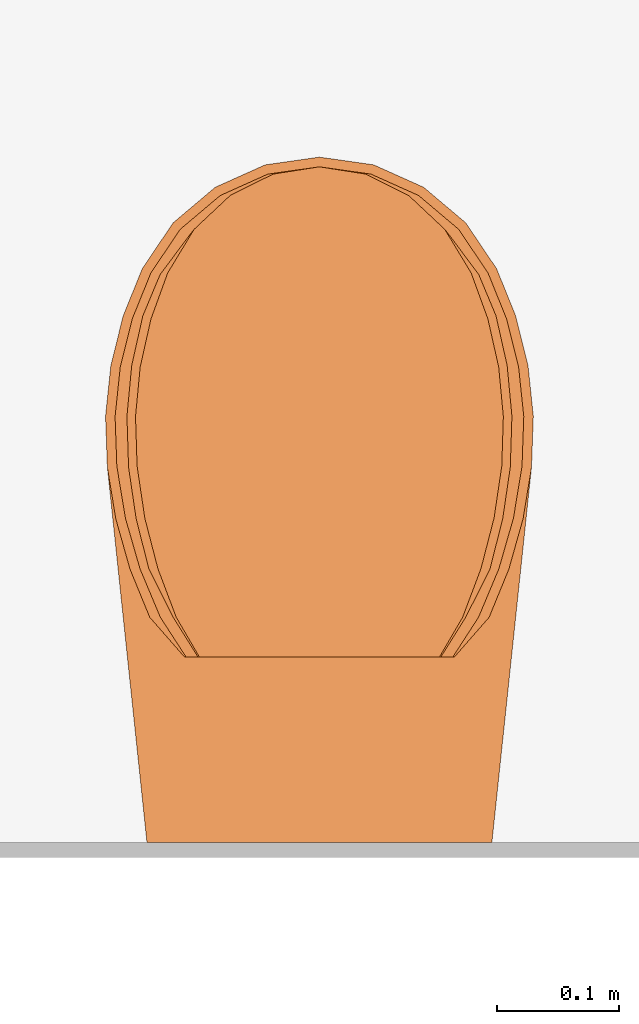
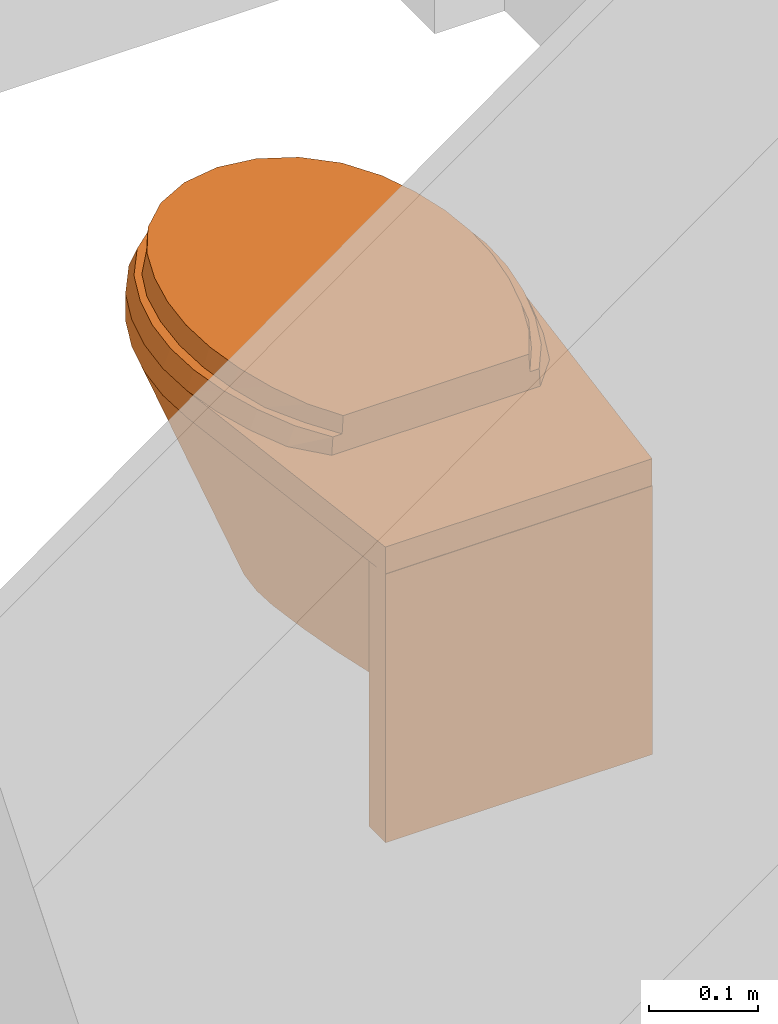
# One storey, part 88 of 99: 1 proxy.
"""IFC2X3 building model written with IfcOpenShell, lengths in millimetres."""

from ifc_helpers import new_model, entity, si_unit, converted_unit, derived_unit, money_unit, direction, frame, origin_with_axes, place, context, subcontext, project, spatial, open_shell, faceted_brep, surface_model, source, transform, mapped, type_object, type_shapes, element, save


model = new_model("IFC2X3")

# Units and contexts
model_context = context("Model", 3, precision=0.01, world=origin_with_axes(), true_north=direction((0.0, 1.0)))
body_context = subcontext(model_context, "Body", "Model", "MODEL_VIEW")
ifc_project = project(units=[si_unit("LENGTHUNIT", "METRE", prefix="MILLI"), si_unit("AREAUNIT", "SQUARE_METRE"), si_unit("VOLUMEUNIT", "CUBIC_METRE"), converted_unit("PLANEANGLEUNIT", "DEGREE", entity("IfcPlaneAngleMeasure", 0.0174532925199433), si_unit("PLANEANGLEUNIT", "RADIAN"), dimensions=[0, 0, 0, 0, 0, 0, 0]), money_unit("EUR"), converted_unit("TIMEUNIT", "Year", entity("IfcTimeMeasure", 31557600.0), si_unit("TIMEUNIT", "SECOND"), dimensions=[0, 0, 1, 0, 0, 0, 0]), si_unit("MASSUNIT", "GRAM", prefix="KILO"), si_unit("THERMODYNAMICTEMPERATUREUNIT", "DEGREE_CELSIUS"), si_unit("LUMINOUSINTENSITYUNIT", "LUMEN"), si_unit("ENERGYUNIT", "JOULE", prefix="MEGA"), derived_unit("THERMALCONDUCTANCEUNIT", [(si_unit("POWERUNIT", "WATT"), 1), (si_unit("LENGTHUNIT", "METRE"), -1), (si_unit("THERMODYNAMICTEMPERATUREUNIT", "KELVIN"), -1)]), derived_unit("SPECIFICHEATCAPACITYUNIT", [(si_unit("ENERGYUNIT", "JOULE"), 1), (si_unit("MASSUNIT", "GRAM", prefix="KILO"), -1), (si_unit("THERMODYNAMICTEMPERATUREUNIT", "KELVIN"), -1)]), derived_unit("MASSDENSITYUNIT", [(si_unit("MASSUNIT", "GRAM", prefix="KILO"), 1), (si_unit("VOLUMEUNIT", "CUBIC_METRE"), -1)])], contexts=[model_context])

# Site, building, storey
site_placement = place(None, origin_with_axes())
site = spatial("IfcSite", under=ifc_project, at=site_placement, Name="Site", CompositionType="ELEMENT")
building_placement = place(site_placement, origin_with_axes())
building = spatial("IfcBuilding", under=site, at=building_placement, Name="Naam gebouw", CompositionType="ELEMENT")
storey_placement = place(building_placement, frame((0.0, 0.0, 7650.0), z_axis=(0.0, 0.0, 1.0), x_axis=(1.0, 0.0, 0.0)))
storey = spatial("IfcBuildingStorey", under=building, at=storey_placement, Name="2e verdieping N", CompositionType="ELEMENT", Elevation=7650.0)

# Proxy
building_element_proxy_type = type_object("IfcBuildingElementProxyType", Name="Toilet 27", PredefinedType="NOTDEFINED")
shared_shape = source(origin_with_axes(), body_context, "Body", "SurfaceModel", [
    faceted_brep([(141.0283315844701, -29.31865370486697, 69.99999999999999), (-141.0283315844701, -29.31865370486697, 69.99999999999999), (-141.0283315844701, 0.4949050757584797, 69.99999999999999), (141.0283315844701, 0.4949050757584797, 69.99999999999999), (141.0283315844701, -29.31865370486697, 370.0), (-141.0283315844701, -29.31865370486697, 370.0), (-141.0283315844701, 0.4949050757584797, 370.0), (141.0283315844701, 0.4949050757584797, 370.0)], [[[0, 1, 2, 3]], [[1, 0, 4, 5]], [[2, 1, 5, 6]], [[3, 2, 6, 7]], [[0, 3, 7, 4]], [[5, 4, 7, 6]]]),
    faceted_brep([(0.0, -70.89167385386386, 370.0), (29.22322490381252, -74.34010881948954, 370.0), (48.96817068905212, -81.5929972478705, 370.0), (48.96817068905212, -29.31865370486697, 370.0), (-48.96817068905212, -29.31865370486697, 370.0), (-48.96817068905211, -81.5929972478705, 370.0), (-29.22322490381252, -74.34010881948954, 370.0), (13.70129415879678, -104.9506834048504, 120.0), (48.96817068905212, -91.42153264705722, 305.9289314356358), (25.9903462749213, -111.5027098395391, 120.0), (48.96817068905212, -132.9294031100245, 150.8349994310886), (48.96817068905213, -162.8654130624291, 120.0), (48.96817068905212, -29.31865370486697, 120.0), (48.96817068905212, -98.32654517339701, 277.0091093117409), (48.96817068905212, -115.6023982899, 192.7960154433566), (48.96817068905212, -128.1614437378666, 166.4745945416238), (-48.96817068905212, -29.31865370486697, 120.0), (-48.96817068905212, -88.2509938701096, 324.1614695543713), (-48.96817068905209, -162.865413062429, 120.0), (-48.96817068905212, -136.958898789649, 141.3134093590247), (-48.96817068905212, -132.9294031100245, 150.8349994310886), (-48.96817068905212, -121.830119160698, 170.4964192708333), (-48.96817068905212, -115.6023982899, 192.7960154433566), (-48.96817068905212, -107.0876370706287, 223.4625696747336), (-48.96817068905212, -91.42153264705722, 305.9289314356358), (-13.70129415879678, -104.9506834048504, 120.0), (0.0, -102.6888280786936, 120.0), (35.59888072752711, -121.6691333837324, 120.0), (41.53676110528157, -134.4015105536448, 120.0), (-41.53676110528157, -134.4015105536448, 120.0), (-25.9903462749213, -111.5027098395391, 120.0), (-35.59888072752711, -121.6691333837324, 120.0)], [[[0, 1, 2, 3, 4, 5, 6]], [[1, 0, 7]], [[8, 2, 1, 9]], [[10, 11, 12, 3, 2, 8, 13, 14, 15]], [[3, 12, 16, 4]], [[17, 5, 4, 16, 18, 19, 20, 21, 22, 23, 24]], [[6, 5, 17, 25]], [[0, 6, 26]], [[26, 7, 0]], [[7, 9, 1]], [[13, 8, 9, 27]], [[11, 10, 28]], [[29, 18, 16, 12, 11, 28, 27, 9, 7, 26, 25, 30, 31]], [[14, 13, 27]], [[15, 14, 27, 28]], [[10, 15, 28]], [[18, 29, 19]], [[20, 19, 29]], [[29, 31, 21, 20]], [[22, 21, 31]], [[31, 30, 23, 22]], [[24, 23, 30]], [[30, 25, 17, 24]], [[25, 26, 6]]]),
    surface_model("IfcShellBasedSurfaceModel", [(17.69122070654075, -459.020482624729, 120.0), (34.02798181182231, -451.6883347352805, 120.0), (85.18209164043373, -535.3680377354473, 370.0), (0.0, -461.5278029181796, 120.0), (-17.69122070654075, -459.020482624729, 120.0), (-34.02798181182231, -451.6883347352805, 120.0), (-47.75865687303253, -440.0938417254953, 120.0), (-57.83238894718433, -425.1254476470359, 120.0), (-68.23029031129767, -399.4182096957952, 120.0), (-74.94382651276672, -372.4786779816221, 120.0), (-77.83882476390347, -344.8464779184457, 120.0), (-76.85750262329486, -317.0761416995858, 120.0), (-70.97348723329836, -270.8651255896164, 120.0), (-63.11507520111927, -224.9582077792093, 120.0), (-53.29597761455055, -179.4418475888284, 120.0), (-41.53676110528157, -134.4015105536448, 120.0), (-35.59888072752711, -121.6691333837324, 120.0), (-25.9903462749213, -111.5027098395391, 120.0), (-13.70129415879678, -104.9506834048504, 120.0), (0.0, -102.6888280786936, 120.0), (13.70129415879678, -104.9506834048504, 120.0), (25.9903462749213, -111.5027098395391, 120.0), (35.59888072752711, -121.6691333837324, 120.0), (41.53676110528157, -134.4015105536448, 120.0), (53.29597761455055, -179.4418475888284, 120.0), (63.11507520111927, -224.9582077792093, 120.0), (70.97348723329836, -270.8651255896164, 120.0), (76.85750262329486, -317.0761416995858, 120.0), (77.83882476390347, -344.845484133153, 120.0), (74.94382651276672, -372.4786779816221, 120.0), (68.23029031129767, -399.4182096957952, 120.0), (57.83238894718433, -425.1254476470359, 120.0), (47.75865687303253, -440.0938417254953, 120.0), (119.554809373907, -506.3435444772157, 370.0), (44.28681357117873, -553.722258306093, 370.0), (0.0, -560.0, 370.0), (-44.28681357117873, -553.722258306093, 370.0), (-85.18209164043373, -535.3680377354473, 370.0), (-119.554809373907, -506.3435444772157, 370.0), (-144.7734172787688, -468.8718762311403, 370.0), (-160.3893669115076, -430.2603362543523, 370.0), (-170.4738719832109, -389.7973742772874, 370.0), (-174.8222455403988, -348.2949128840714, 370.0), (-173.3473242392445, -306.5847503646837, 370.0), (-164.8111927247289, -257.295981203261, 370.0), (-149.8396642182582, -209.614162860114, 370.0), (-128.7050017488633, -164.3989196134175, 370.0), (-101.7881776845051, -122.4661491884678, 370.0), (-81.51241692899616, -100.8344247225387, 370.0), (-56.88632388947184, -84.50156343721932, 370.0), (-29.22322490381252, -74.34010881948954, 370.0), (0.0, -70.89167385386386, 370.0), (29.22322490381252, -74.34010881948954, 370.0), (56.88632388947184, -84.50156343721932, 370.0), (81.51241692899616, -100.8344247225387, 370.0), (101.7881776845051, -122.4661491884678, 370.0), (128.7050017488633, -164.3989196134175, 370.0), (149.8396642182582, -209.614162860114, 370.0), (164.8111927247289, -257.2969749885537, 370.0), (173.3473242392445, -306.5847503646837, 370.0), (174.8222455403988, -348.2949128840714, 370.0), (170.4738719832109, -389.7973742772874, 370.0), (160.3903462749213, -430.2603362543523, 370.0), (144.7734172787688, -468.8718762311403, 370.0)], [open_shell([[[0, 1, 2]], [[0, 3, 4, 5, 6, 7, 8, 9, 10, 11, 12, 13, 14, 15, 16, 17, 18, 19, 20, 21, 22, 23, 24, 25, 26, 27, 28, 29, 30, 31, 32, 1]], [[1, 33, 2]], [[0, 2, 34]], [[3, 0, 34]], [[4, 3, 35]], [[5, 4, 36]], [[6, 5, 37]], [[7, 6, 38]], [[8, 7, 39]], [[9, 8, 40]], [[10, 9, 41]], [[11, 10, 42]], [[12, 11, 43]], [[13, 12, 44]], [[14, 13, 45]], [[15, 14, 46]], [[16, 15, 47]], [[17, 16, 48]], [[18, 17, 49]], [[19, 18, 50]], [[20, 19, 51]], [[21, 20, 52]], [[22, 21, 53]], [[23, 22, 54]], [[24, 23, 55]], [[25, 24, 56]], [[26, 25, 57]], [[27, 26, 58]], [[28, 27, 59]], [[29, 28, 60]], [[30, 29, 61]], [[31, 30, 62]], [[32, 31, 63]], [[1, 32, 33]], [[3, 34, 35]], [[4, 35, 36]], [[5, 36, 37]], [[6, 37, 38]], [[7, 38, 39]], [[8, 39, 40]], [[9, 40, 41]], [[10, 41, 42]], [[11, 42, 43]], [[12, 43, 44]], [[13, 44, 45]], [[14, 45, 46]], [[15, 46, 47]], [[16, 47, 48]], [[17, 48, 49]], [[18, 49, 50]], [[19, 50, 51]], [[20, 51, 52]], [[21, 52, 53]], [[22, 53, 54]], [[23, 54, 55]], [[24, 55, 56]], [[25, 56, 57]], [[26, 57, 58]], [[27, 58, 59]], [[28, 59, 60]], [[29, 60, 61]], [[30, 61, 62]], [[31, 62, 63]], [[32, 63, 33]]])]),
    faceted_brep([(-173.3473242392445, -306.5847503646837, 370.0), (-174.8222455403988, -348.2949128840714, 370.0), (-174.8222455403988, -348.2949128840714, 400.0), (-173.3473242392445, -306.5847503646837, 400.0), (-140.9734872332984, 0.0, 370.0), (140.975445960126, 0.0, 370.0), (173.3473242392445, -306.5847503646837, 370.0), (174.8222455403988, -348.2949128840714, 370.0), (170.4738719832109, -389.7973742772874, 370.0), (160.3903462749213, -430.2603362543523, 370.0), (144.7734172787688, -468.8718762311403, 370.0), (119.554809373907, -506.3435444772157, 370.0), (85.18209164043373, -535.3680377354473, 370.0), (44.28681357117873, -553.722258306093, 370.0), (0.0, -560.0, 370.0), (-44.28681357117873, -553.722258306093, 370.0), (-85.18209164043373, -535.3680377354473, 370.0), (-119.554809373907, -506.3435444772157, 370.0), (-144.7734172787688, -468.8718762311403, 370.0), (-160.3893669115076, -430.2603362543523, 370.0), (-170.4738719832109, -389.7973742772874, 370.0), (144.5021336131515, -309.7211367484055, 370.0), (129.3885974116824, -258.2838037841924, 370.0), (97.13522210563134, -215.7418429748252, 370.0), (52.01301154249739, -187.731010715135, 370.0), (0.0, -177.9630950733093, 370.0), (-52.01301154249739, -187.731010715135, 370.0), (-97.13522210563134, -215.7418429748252, 370.0), (-129.3885974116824, -258.2838037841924, 370.0), (-144.5021336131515, -309.7211367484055, 370.0), (-145.8291710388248, -347.2633637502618, 370.0), (-141.914655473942, -384.6197529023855, 370.0), (-132.838894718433, -421.0399963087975, 370.0), (-118.7820916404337, -455.7936617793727, 370.0), (-98.09206016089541, -486.5383973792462, 370.0), (-69.89031129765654, -510.3524743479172, 370.0), (-36.33634137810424, -525.411302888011, 370.0), (0.0, -530.5620920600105, 370.0), (36.33634137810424, -525.411302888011, 370.0), (69.89031129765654, -510.3524743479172, 370.0), (98.09206016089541, -486.5383973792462, 370.0), (118.7820916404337, -455.7936617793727, 370.0), (132.838894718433, -421.0399963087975, 370.0), (141.914655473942, -384.6197529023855, 370.0), (145.8291710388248, -347.2633637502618, 370.0), (-170.4738719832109, -389.7973742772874, 400.0), (-160.3893669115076, -430.2603362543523, 400.0), (-144.7734172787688, -468.8718762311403, 400.0), (-119.554809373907, -506.3435444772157, 400.0), (-85.18209164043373, -535.3680377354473, 400.0), (-44.28681357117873, -553.722258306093, 400.0), (0.0, -560.0, 400.0), (44.28681357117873, -553.722258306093, 400.0), (85.18209164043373, -535.3680377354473, 400.0), (119.554809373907, -506.3435444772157, 400.0), (144.7734172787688, -468.8718762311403, 400.0), (160.3903462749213, -430.2603362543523, 400.0), (170.4738719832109, -389.7973742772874, 400.0), (174.8222455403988, -348.2949128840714, 400.0), (173.3473242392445, -306.5847503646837, 400.0), (140.975445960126, 0.0, 400.0), (-140.9734872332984, 0.0, 400.0), (144.5021336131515, -309.7211367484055, 400.0), (145.8291710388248, -347.2633637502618, 400.0), (141.914655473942, -384.6197529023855, 400.0), (132.838894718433, -421.0399963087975, 400.0), (118.7820916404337, -455.7936617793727, 400.0), (98.09206016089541, -486.5383973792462, 400.0), (69.89031129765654, -510.3524743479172, 400.0), (36.33634137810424, -525.411302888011, 400.0), (0.0, -530.5620920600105, 400.0), (-36.33634137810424, -525.411302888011, 400.0), (-69.89031129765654, -510.3524743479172, 400.0), (-98.09206016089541, -486.5383973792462, 400.0), (-118.7820916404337, -455.7936617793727, 400.0), (-132.838894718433, -421.0399963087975, 400.0), (-141.914655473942, -384.6197529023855, 400.0), (-145.8291710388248, -347.2633637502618, 400.0), (-144.5021336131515, -309.7211367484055, 400.0), (-129.3885974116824, -258.2838037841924, 400.0), (-97.13522210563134, -215.7418429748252, 400.0), (-52.01301154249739, -187.731010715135, 400.0), (0.0, -177.9630950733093, 400.0), (52.01301154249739, -187.731010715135, 400.0), (97.13522210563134, -215.7418429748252, 400.0), (129.3885974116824, -258.2838037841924, 400.0)], [[[0, 1, 2, 3]], [[0, 4, 5, 6, 7, 8, 9, 10, 11, 12, 13, 14, 15, 16, 17, 18, 19, 20, 1], [21, 22, 23, 24, 25, 26, 27, 28, 29, 30, 31, 32, 33, 34, 35, 36, 37, 38, 39, 40, 41, 42, 43, 44]], [[1, 20, 45, 2]], [[3, 2, 45, 46, 47, 48, 49, 50, 51, 52, 53, 54, 55, 56, 57, 58, 59, 60, 61], [62, 63, 64, 65, 66, 67, 68, 69, 70, 71, 72, 73, 74, 75, 76, 77, 78, 79, 80, 81, 82, 83, 84, 85]], [[4, 0, 3, 61]], [[5, 4, 61, 60]], [[6, 5, 60, 59]], [[7, 6, 59, 58]], [[8, 7, 58, 57]], [[9, 8, 57, 56]], [[10, 9, 56, 55]], [[11, 10, 55, 54]], [[12, 11, 54, 53]], [[13, 12, 53, 52]], [[14, 13, 52, 51]], [[15, 14, 51, 50]], [[16, 15, 50, 49]], [[17, 16, 49, 48]], [[18, 17, 48, 47]], [[19, 18, 47, 46]], [[20, 19, 46, 45]], [[22, 21, 62, 85]], [[23, 22, 85, 84]], [[24, 23, 84, 83]], [[25, 24, 83, 82]], [[26, 25, 82, 81]], [[27, 26, 81, 80]], [[28, 27, 80, 79]], [[29, 28, 79, 78]], [[30, 29, 78, 77]], [[31, 30, 77, 76]], [[32, 31, 76, 75]], [[33, 32, 75, 74]], [[34, 33, 74, 73]], [[35, 34, 73, 72]], [[36, 35, 72, 71]], [[37, 36, 71, 70]], [[38, 37, 70, 69]], [[39, 38, 69, 68]], [[40, 39, 68, 67]], [[41, 40, 67, 66]], [[42, 41, 66, 65]], [[43, 42, 65, 64]], [[44, 43, 64, 63]], [[21, 44, 63, 62]]]),
    surface_model("IfcShellBasedSurfaceModel", [(16.80665967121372, -465.7329258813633, 220.0), (32.3265827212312, -460.0138505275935, 220.0), (80.92298705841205, -525.2840188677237, 370.0), (0.0, -467.6886357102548, 220.0), (-16.80665967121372, -465.7329258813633, 220.0), (-32.3265827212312, -460.0138505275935, 220.0), (-45.3707240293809, -450.970145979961, 220.0), (-54.94076949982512, -439.2947985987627, 220.0), (-64.81877579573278, -419.2431529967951, 220.0), (-71.1966351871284, -398.23031825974, 220.0), (-73.9468835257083, -376.6772022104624, 220.0), (-73.01462749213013, -355.0163399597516, 220.0), (-67.42481287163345, -318.9717473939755, 220.0), (-59.95932144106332, -283.164351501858, 220.0), (-50.63117873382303, -247.6615905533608, 220.0), (-39.4599230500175, -212.5301276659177, 220.0), (-33.81893669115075, -202.598873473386, 220.0), (-24.69082896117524, -194.6690631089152, 220.0), (-13.01622945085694, -189.558482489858, 220.0), (0.0, -187.7942353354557, 220.0), (13.01622945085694, -189.558482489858, 220.0), (24.69082896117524, -194.6690631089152, 220.0), (33.81893669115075, -202.598873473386, 220.0), (39.4599230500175, -212.5301276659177, 220.0), (50.63117873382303, -247.6615905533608, 220.0), (59.95932144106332, -283.164351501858, 220.0), (67.42481287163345, -318.9717473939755, 220.0), (73.01462749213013, -355.0163399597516, 220.0), (73.9468835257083, -376.6764270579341, 220.0), (71.1966351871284, -398.23031825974, 220.0), (64.81877579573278, -419.2431529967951, 220.0), (54.94076949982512, -439.2947985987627, 220.0), (45.3707240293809, -450.970145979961, 220.0), (113.5770689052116, -502.644914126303, 370.0), (42.0724728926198, -539.6003109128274, 370.0), (0.0, -544.4969494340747, 370.0), (-42.0724728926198, -539.6003109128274, 370.0), (-80.92298705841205, -525.2840188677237, 370.0), (-113.5770689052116, -502.644914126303, 370.0), (-137.5347464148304, -473.4170128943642, 370.0), (-152.3698985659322, -443.3000117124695, 370.0), (-161.9501783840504, -411.7389013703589, 370.0), (-166.0811332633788, -379.3669814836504, 370.0), (-164.6799580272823, -346.833054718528, 370.0), (-156.5706330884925, -308.3878147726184, 370.0), (-142.3476810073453, -271.1959964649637, 370.0), (-122.2697516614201, -235.9281067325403, 370.0), (-96.69876880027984, -203.2205458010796, 370.0), (-77.43679608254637, -186.3478007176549, 370.0), (-54.04200769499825, -173.6081689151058, 370.0), (-27.7620636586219, -165.6822343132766, 370.0), (0.0, -162.9924550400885, 370.0), (27.7620636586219, -165.6822343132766, 370.0), (54.04200769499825, -173.6081689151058, 370.0), (77.43679608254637, -186.3478007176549, 370.0), (96.69876880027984, -203.2205458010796, 370.0), (122.2697516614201, -235.9281067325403, 370.0), (142.3476810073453, -271.1959964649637, 370.0), (156.5706330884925, -308.3885899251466, 370.0), (164.6799580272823, -346.833054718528, 370.0), (166.0811332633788, -379.3669814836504, 370.0), (161.9501783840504, -411.7389013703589, 370.0), (152.3708289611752, -443.3000117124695, 370.0), (137.5347464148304, -473.4170128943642, 370.0)], [open_shell([[[0, 1, 2]], [[0, 3, 4, 5, 6, 7, 8, 9, 10, 11, 12, 13, 14, 15, 16, 17, 18, 19, 20, 21, 22, 23, 24, 25, 26, 27, 28, 29, 30, 31, 32, 1]], [[1, 33, 2]], [[0, 2, 34]], [[3, 0, 34]], [[4, 3, 35]], [[5, 4, 36]], [[6, 5, 37]], [[7, 6, 38]], [[8, 7, 39]], [[9, 8, 40]], [[10, 9, 41]], [[11, 10, 42]], [[12, 11, 43]], [[13, 12, 44]], [[14, 13, 45]], [[15, 14, 46]], [[16, 15, 47]], [[17, 16, 48]], [[18, 17, 49]], [[19, 18, 50]], [[20, 19, 51]], [[21, 20, 52]], [[22, 21, 53]], [[23, 22, 54]], [[24, 23, 55]], [[25, 24, 56]], [[26, 25, 57]], [[27, 26, 58]], [[28, 27, 59]], [[29, 28, 60]], [[30, 29, 61]], [[31, 30, 62]], [[32, 31, 63]], [[1, 32, 33]], [[3, 34, 35]], [[4, 35, 36]], [[5, 36, 37]], [[6, 37, 38]], [[7, 38, 39]], [[8, 39, 40]], [[9, 40, 41]], [[10, 41, 42]], [[11, 42, 43]], [[12, 43, 44]], [[13, 44, 45]], [[14, 45, 46]], [[15, 46, 47]], [[16, 47, 48]], [[17, 48, 49]], [[18, 49, 50]], [[19, 50, 51]], [[20, 51, 52]], [[21, 52, 53]], [[22, 53, 54]], [[23, 54, 55]], [[24, 55, 56]], [[25, 56, 57]], [[26, 57, 58]], [[27, 58, 59]], [[28, 59, 60]], [[29, 60, 61]], [[30, 61, 62]], [[31, 62, 63]], [[32, 63, 33]]])]),
    faceted_brep([(0.0, -560.0, 400.0), (-44.28681357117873, -553.722258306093, 400.0), (-85.18209164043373, -535.3680377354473, 400.0), (-119.554809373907, -506.3435444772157, 400.0), (-144.7734172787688, -468.8718762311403, 400.0), (-160.3893669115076, -430.2603362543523, 400.0), (-170.4738719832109, -389.7973742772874, 400.0), (-174.8222455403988, -348.2949128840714, 400.0), (-173.3473242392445, -306.5847503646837, 400.0), (-166.4663168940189, -264.4263906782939, 400.0), (-154.8716334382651, -223.3443004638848, 400.0), (-138.7150752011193, -183.8810864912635, 400.0), (-110.1926579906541, -151.3163525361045, 400.0), (110.1926579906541, -151.3163525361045, 400.0), (138.7150752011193, -183.8810864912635, 400.0), (154.8716334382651, -223.3443004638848, 400.0), (166.4663168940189, -264.4263906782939, 400.0), (173.3473242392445, -306.5847503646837, 400.0), (174.8222455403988, -348.2949128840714, 400.0), (170.4738719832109, -389.7973742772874, 400.0), (160.3903462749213, -430.2603362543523, 400.0), (144.7734172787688, -468.8718762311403, 400.0), (119.554809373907, -506.3435444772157, 400.0), (85.18209164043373, -535.3680377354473, 400.0), (44.28681357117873, -553.722258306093, 400.0), (87.07689659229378, -411.9963613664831, 400.0), (94.51085540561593, -382.2763031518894, 400.0), (97.71606496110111, -351.7983255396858, 400.0), (96.61425296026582, -320.7429308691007, 400.0), (90.99294096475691, -286.7942733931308, 400.0), (81.32886310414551, -253.3381075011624, 400.0), (68.75448552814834, -223.4663237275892, 400.0), (-68.75412876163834, -223.4663237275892, 400.0), (-81.3289539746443, -253.3384220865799, 400.0), (-90.99294096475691, -286.7942733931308, 400.0), (-96.61425296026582, -320.7429308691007, 400.0), (-97.71606496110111, -351.7983255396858, 400.0), (-94.51085540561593, -382.2763031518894, 400.0), (-87.07689659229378, -411.9963613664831, 400.0), (-76.4888004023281, -438.0775703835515, 400.0), (-62.06856874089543, -459.4262123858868, 400.0), (-44.26109835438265, -474.4067566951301, 400.0), (-23.02579943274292, -483.9023013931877, 400.0), (0.0, -487.1544663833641, 400.0), (23.02579943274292, -483.9023013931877, 400.0), (44.26109835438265, -474.4067566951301, 400.0), (62.06856874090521, -459.4262123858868, 400.0), (76.4888004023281, -438.0775703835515, 400.0), (0.0, -552.0944379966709, 420.0000000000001), (-42.15180132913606, -546.1188070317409, 420.0000000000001), (-81.07562084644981, -528.649055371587, 420.0000000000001), (-113.7912556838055, -501.0248055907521, 420.0000000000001), (-137.7925148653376, -465.3598390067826, 420.0000000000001), (-152.9902763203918, -427.7848170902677, 420.0000000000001), (-162.8034977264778, -388.4070686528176, 420.0000000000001), (-167.0353270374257, -348.0176467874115, 420.0000000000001), (-165.6005596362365, -307.4274802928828, 420.0000000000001), (-158.5902763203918, -264.9332211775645, 420.0000000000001), (-146.6880727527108, -223.5758524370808, 420.0000000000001), (-130.06142007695, -183.9317695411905, 420.0000000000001), (-108.940468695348, -151.3163525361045, 420.0000000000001), (108.940468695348, -151.3163525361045, 420.0000000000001), (130.06142007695, -183.9307757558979, 420.0000000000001), (146.6880727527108, -223.5758524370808, 420.0000000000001), (158.5902763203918, -264.9332211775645, 420.0000000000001), (165.6005596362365, -307.4274802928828, 420.0000000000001), (167.0353270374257, -348.0176467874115, 420.0000000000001), (162.8034977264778, -388.4070686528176, 420.0000000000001), (152.9902763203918, -427.7848170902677, 420.0000000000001), (137.7925148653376, -465.3598390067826, 420.0000000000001), (113.7912556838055, -501.0248055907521, 420.0000000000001), (81.07562084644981, -528.649055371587, 420.0000000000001), (42.15180132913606, -546.1188070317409, 420.0000000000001), (87.07689659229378, -411.9963613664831, 420.0), (94.51085540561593, -382.2763031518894, 420.0), (97.71606496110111, -351.7983255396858, 420.0), (96.61425296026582, -320.7429308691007, 420.0), (90.99294096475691, -286.7942733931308, 420.0), (81.32886310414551, -253.3381075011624, 420.0), (68.75448552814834, -223.4663237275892, 420.0), (-68.75412876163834, -223.4663237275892, 420.0000000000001), (-81.3289539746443, -253.3384220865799, 420.0000000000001), (-90.99294096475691, -286.7942733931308, 420.0000000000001), (-96.61425296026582, -320.7429308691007, 420.0000000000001), (-97.71606496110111, -351.7983255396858, 420.0000000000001), (-94.51085540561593, -382.2763031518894, 420.0000000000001), (-87.07689659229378, -411.9963613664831, 420.0000000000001), (-76.4888004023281, -438.0775703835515, 420.0000000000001), (-62.06856874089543, -459.4262123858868, 420.0000000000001), (-44.26109835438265, -474.4067566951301, 420.0000000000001), (-23.02579943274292, -483.9023013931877, 420.0000000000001), (0.0, -487.1544663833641, 420.0), (23.02579943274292, -483.9023013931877, 420.0), (44.26109835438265, -474.4067566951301, 420.0), (62.06856874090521, -459.4262123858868, 420.0), (76.4888004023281, -438.0775703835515, 420.0)], [[[0, 1, 2, 3, 4, 5, 6, 7, 8, 9, 10, 11, 12, 13, 14, 15, 16, 17, 18, 19, 20, 21, 22, 23, 24], [25, 26, 27, 28, 29, 30, 31, 32, 33, 34, 35, 36, 37, 38, 39, 40, 41, 42, 43, 44, 45, 46, 47]], [[1, 0, 48]], [[2, 1, 49]], [[3, 2, 50]], [[4, 3, 51]], [[5, 4, 52]], [[6, 5, 53]], [[6, 54, 55, 7]], [[8, 7, 55]], [[9, 8, 56]], [[10, 9, 57]], [[11, 10, 58]], [[12, 11, 59]], [[12, 60, 61, 13]], [[14, 13, 61]], [[15, 14, 62]], [[16, 15, 63]], [[17, 16, 64]], [[18, 17, 65]], [[18, 66, 67, 19]], [[20, 19, 67]], [[20, 68, 69, 21]], [[22, 21, 69]], [[23, 22, 70]], [[24, 23, 71]], [[0, 24, 72]], [[73, 74, 26, 25]], [[74, 75, 27, 26]], [[75, 76, 28, 27]], [[76, 77, 29, 28]], [[77, 78, 30, 29]], [[78, 79, 31, 30]], [[79, 80, 32, 31]], [[80, 81, 33, 32]], [[81, 82, 34, 33]], [[82, 83, 35, 34]], [[83, 84, 36, 35]], [[84, 85, 37, 36]], [[85, 86, 38, 37]], [[86, 87, 39, 38]], [[87, 88, 40, 39]], [[88, 89, 41, 40]], [[89, 90, 42, 41]], [[90, 91, 43, 42]], [[91, 92, 44, 43]], [[92, 93, 45, 44]], [[93, 94, 46, 45]], [[94, 95, 47, 46]], [[95, 73, 25, 47]], [[0, 72, 48]], [[1, 48, 49]], [[2, 49, 50]], [[3, 50, 51]], [[4, 51, 52]], [[5, 52, 53]], [[6, 53, 54]], [[54, 53, 52, 51, 50, 49, 48, 72, 71, 70, 69, 68, 67, 66, 65, 64, 63, 62, 61, 60, 59, 58, 57, 56, 55], [77, 76, 75, 74, 73, 95, 94, 93, 92, 91, 90, 89, 88, 87, 86, 85, 84, 83, 82, 81, 80, 79, 78]], [[8, 55, 56]], [[9, 56, 57]], [[10, 57, 58]], [[11, 58, 59]], [[12, 59, 60]], [[14, 61, 62]], [[15, 62, 63]], [[16, 63, 64]], [[17, 64, 65]], [[18, 65, 66]], [[20, 67, 68]], [[22, 69, 70]], [[23, 70, 71]], [[24, 71, 72]]]),
    faceted_brep([(-107.5993284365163, -494.4181209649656, 420.0000000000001), (-76.66388247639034, -519.4674730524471, 420.0000000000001), (-72.96805876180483, -528.649055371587, 440.0000000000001), (-130.2960755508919, -463.9029497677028, 420.0000000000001), (-144.3504302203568, -430.2603362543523, 420.0000000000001), (-153.4264847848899, -389.7973742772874, 420.0000000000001), (-157.3400209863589, -348.2949128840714, 420.0000000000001), (-156.01259181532, -306.5847503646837, 420.0000000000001), (-149.819685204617, -264.4263906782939, 420.0000000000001), (-139.3844700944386, -223.3443004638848, 420.0000000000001), (-119.5550052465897, -183.8810864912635, 420.0000000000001), (-99.17339219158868, -151.3163525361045, 420.0000000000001), (99.17339219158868, -151.3163525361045, 420.0000000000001), (119.5550052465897, -183.8810864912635, 420.0000000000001), (139.3844700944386, -223.3443004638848, 420.0000000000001), (149.819685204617, -264.4263906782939, 420.0000000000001), (156.01259181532, -306.5847503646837, 420.0000000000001), (157.3400209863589, -348.2949128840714, 420.0000000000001), (153.4264847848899, -389.7973742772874, 420.0000000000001), (144.3513116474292, -430.2603362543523, 420.0000000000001), (130.2960755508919, -463.9029497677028, 420.0000000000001), (107.5993284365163, -494.4181209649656, 420.0000000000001), (76.66388247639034, -519.4674730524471, 420.0000000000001), (39.85813221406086, -538.8154789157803, 420.0000000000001), (0.0, -545.0932206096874, 420.0000000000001), (-39.85813221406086, -538.8154789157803, 420.0000000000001), (-37.93662119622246, -546.1188070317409, 440.0000000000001), (-102.412130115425, -501.0248055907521, 440.0000000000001), (-124.0132633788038, -465.3598390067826, 440.0000000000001), (-137.6912486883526, -427.7848170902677, 440.0000000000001), (-146.52314795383, -388.4070686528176, 440.0000000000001), (-150.3317943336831, -348.0176467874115, 440.0000000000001), (-149.0405036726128, -307.4274802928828, 440.0000000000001), (-142.7312486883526, -264.9332211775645, 440.0000000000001), (-132.0192654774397, -223.5758524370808, 440.0000000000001), (-117.055278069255, -183.9317695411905, 440.0000000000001), (-98.04642182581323, -151.3163525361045, 440.0000000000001), (98.04642182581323, -151.3163525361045, 440.0000000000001), (117.055278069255, -183.9307757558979, 440.0000000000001), (132.0192654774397, -223.5758524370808, 440.0000000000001), (142.7312486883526, -264.9332211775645, 440.0000000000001), (149.0405036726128, -307.4274802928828, 440.0000000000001), (150.3317943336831, -348.0176467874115, 440.0000000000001), (146.52314795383, -388.4070686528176, 440.0000000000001), (137.6912486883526, -427.7848170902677, 440.0000000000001), (124.0132633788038, -465.3598390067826, 440.0000000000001), (102.412130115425, -501.0248055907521, 440.0000000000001), (72.96805876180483, -528.649055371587, 440.0000000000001), (37.93662119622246, -546.1188070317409, 440.0000000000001), (0.0, -552.0944379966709, 440.0000000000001)], [[[0, 1, 2]], [[0, 3, 4, 5, 6, 7, 8, 9, 10, 11, 12, 13, 14, 15, 16, 17, 18, 19, 20, 21, 22, 23, 24, 25, 1]], [[1, 26, 2]], [[0, 2, 27]], [[3, 0, 27]], [[4, 3, 28]], [[5, 4, 29]], [[6, 5, 30, 31]], [[7, 6, 31]], [[8, 7, 32]], [[9, 8, 33]], [[10, 9, 34]], [[11, 10, 35]], [[12, 11, 36, 37]], [[13, 12, 37]], [[14, 13, 38]], [[15, 14, 39]], [[16, 15, 40]], [[17, 16, 41]], [[18, 17, 42, 43]], [[19, 18, 43]], [[20, 19, 44]], [[21, 20, 45]], [[22, 21, 46]], [[23, 22, 47]], [[24, 23, 48]], [[25, 24, 49]], [[1, 25, 26]], [[27, 2, 26, 49, 48, 47, 46, 45, 44, 43, 42, 41, 40, 39, 38, 37, 36, 35, 34, 33, 32, 31, 30, 29, 28]], [[3, 27, 28]], [[4, 28, 29]], [[5, 29, 30]], [[7, 31, 32]], [[8, 32, 33]], [[9, 33, 34]], [[10, 34, 35]], [[11, 35, 36]], [[13, 37, 38]], [[14, 38, 39]], [[15, 39, 40]], [[16, 40, 41]], [[17, 41, 42]], [[19, 43, 44]], [[20, 44, 45]], [[21, 45, 46]], [[22, 46, 47]], [[23, 47, 48]], [[24, 48, 49]], [[25, 49, 26]]]),
])
type_shapes(building_element_proxy_type, [shared_shape])
proxy_placement = place(storey_placement, frame((700.0001108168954, 3596.873864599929, 0.0), z_axis=(0.0, 0.0, 1.0), x_axis=(-1.0, 0.0, 0.0)))
element("IfcBuildingElementProxy", 1, at=proxy_placement, inside=storey, type_object=building_element_proxy_type, Name="_Sanitair-x", context=body_context, shape_type="MappedRepresentation", body=[
    mapped(shared_shape, transform((0.0, 0.0, 0.0))),
])

save(model, "model.ifc")
